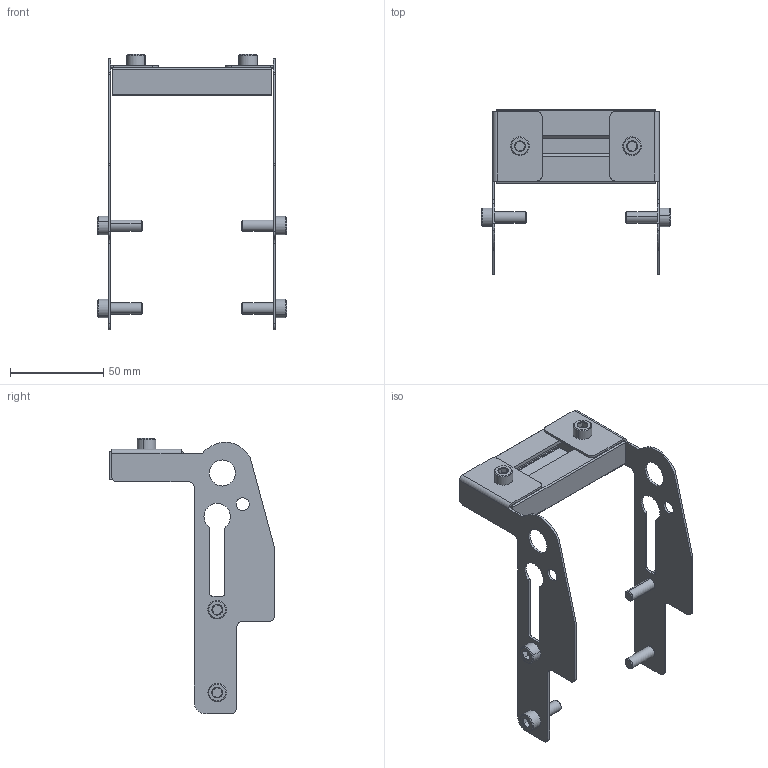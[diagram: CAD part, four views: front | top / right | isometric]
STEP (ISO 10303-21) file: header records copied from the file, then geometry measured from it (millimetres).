
FILE_DESCRIPTION (( 'STEP AP203' ), '1' );
FILE_NAME ('207213-03.STEP', '2017-08-25T14:17:27', ( '' ), ( '' ), 'SwSTEP 2.0', 'SolidWorks 2017', '' );
FILE_SCHEMA (( 'CONFIG_CONTROL_DESIGN' ));
Length unit declared in the file: inch
Products named in the file (7): 834-FASN-M6; 207213-03; 9206XXM_920618M; 207130-LH; 207216-WW_207216-03; 9206XXM_920612M; 207130-RH
Assembly tree (11 placements, depth 2):
  207213-03
    207130-RH
    207216-WW_207216-03
    834-FASN-M6  x2
    9206XXM_920612M  x2
    207130-LH
    9206XXM_920618M  x4
Bounding box: 101.46 x 88.64 x 147.81 mm (x, y, z)
Volume: 45920.2 mm3; surface area: 51563.1 mm2
Topology: 11 solids, 11 shells, 344 faces, 818 edges, 508 vertices
Faces by surface type: plane 146, cylinder 132, cone 66
Entity records: 8315 total; most frequent: CARTESIAN_POINT 1380, DIRECTION 1348, ORIENTED_EDGE 1224, EDGE_CURVE 612, AXIS2_PLACEMENT_3D 500, VERTEX_POINT 392, VECTOR 348, LINE 348
